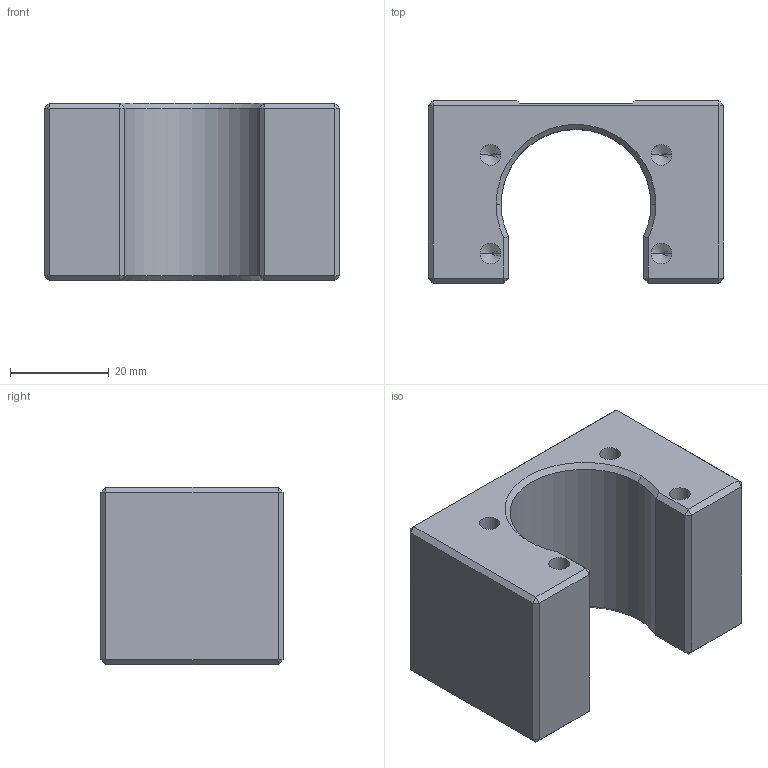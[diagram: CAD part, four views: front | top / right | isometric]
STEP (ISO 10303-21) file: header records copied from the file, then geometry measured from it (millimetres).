
FILE_DESCRIPTION (( 'STEP AP203' ), '1' );
FILE_NAME ('MC1205.STEP', '2008-06-09T03:08:07', ( '' ), ( '' ), 'SwSTEP 2.0', 'SolidWorks 2008', '' );
FILE_SCHEMA (( 'CONFIG_CONTROL_DESIGN' ));
Length unit declared in the file: millimetre
Products named in the file (1): MC1205
Bounding box: 60 x 37 x 36 mm (x, y, z)
Volume: 47880.9 mm3; surface area: 12932.5 mm2
Topology: 1 solids, 1 shells, 86 faces, 192 edges, 100 vertices
Faces by surface type: plane 45, cone 22, cylinder 19
Entity records: 2269 total; most frequent: DIRECTION 390, CARTESIAN_POINT 375, ORIENTED_EDGE 352, EDGE_CURVE 176, AXIS2_PLACEMENT_3D 131, VECTOR 128, LINE 128, VERTEX_POINT 100
